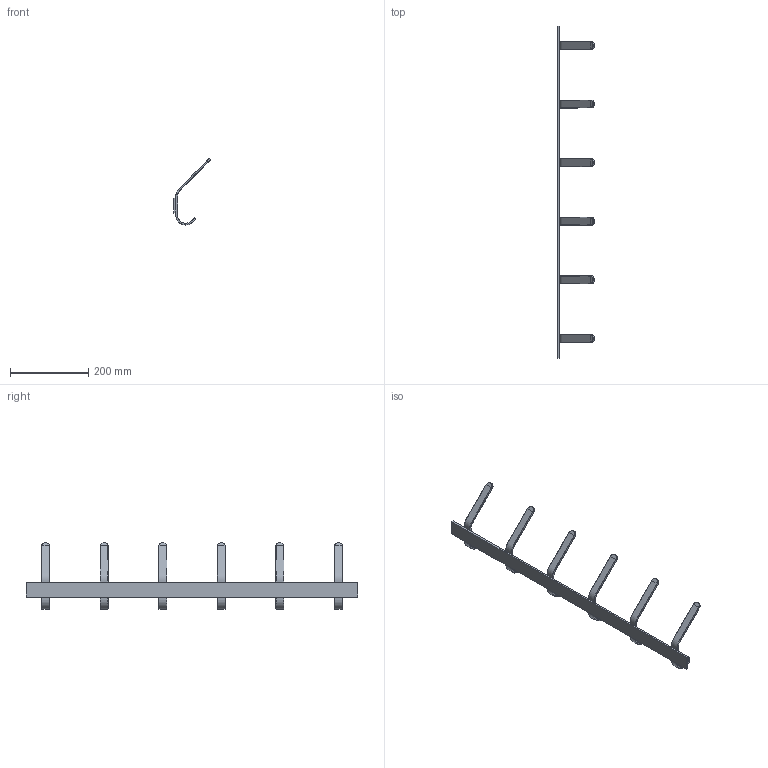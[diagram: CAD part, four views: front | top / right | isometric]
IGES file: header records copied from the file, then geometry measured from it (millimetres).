
Global section: file name: N:\e15\ ENTWICKLUNG\E15_PRODUKTE_DWG_DXF\neue_Produkte_2012\FK_UNI\6er Haken\3D\120327_FK08_UNI_6er_Isometrie.igs; native system: VectorWorks; preprocessor: HarmonyWare IGES v1.5.9; date: 20120328.111219; units: millimetre
Bounding box: 93.9 x 850 x 169.68 mm (x, y, z)
Volume: 304412.2 mm3; surface area: 146662.8 mm2
Topology: 19 solids, 19 shells, 210 faces, 468 edges, 296 vertices
Faces by surface type: bspline 210
